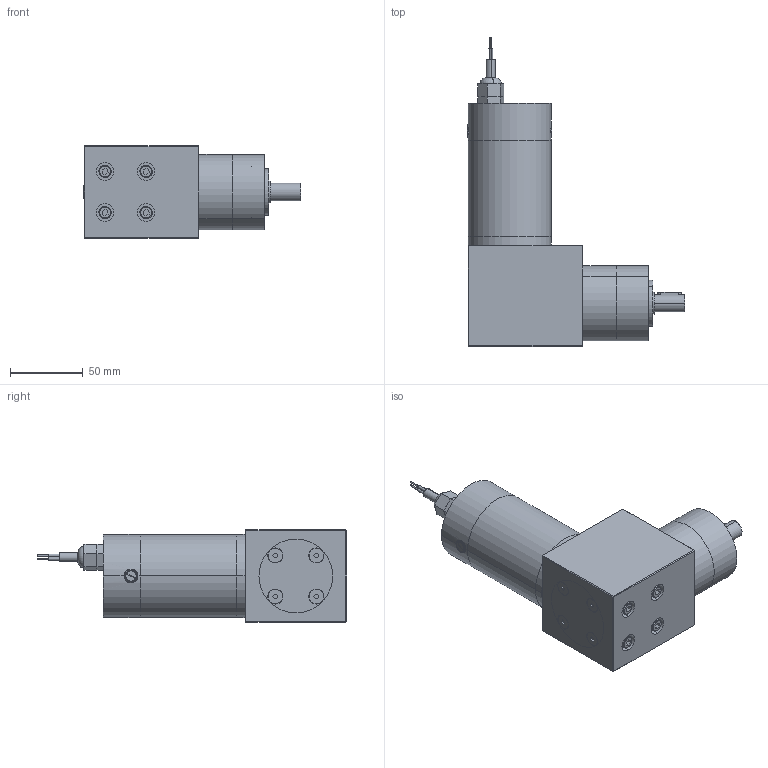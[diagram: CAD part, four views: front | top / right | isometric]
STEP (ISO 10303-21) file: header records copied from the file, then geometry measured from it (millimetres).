
FILE_DESCRIPTION (( 'STEP AP203' ), '1' );
FILE_NAME ('tm57gra1.step', '2022-05-11T15:43:47', ( '' ), ( '' ), 'SwSTEP 2.0', 'SolidWorks 2017', '' );
FILE_SCHEMA (( 'CONFIG_CONTROL_DESIGN' ));
Length unit declared in the file: millimetre
Products named in the file (1): tm57gra1
Bounding box: 149.91 x 212.86 x 63.5 mm (x, y, z)
Volume: 695316 mm3; surface area: 115620.4 mm2
Topology: 25 solids, 25 shells, 568 faces, 1233 edges, 766 vertices
Faces by surface type: plane 270, cylinder 212, cone 75, torus 7, sphere 4
Entity records: 15724 total; most frequent: DIRECTION 2873, CARTESIAN_POINT 2822, ORIENTED_EDGE 2434, EDGE_CURVE 1217, AXIS2_PLACEMENT_3D 1101, VERTEX_POINT 766, EDGE_LOOP 679, VECTOR 671
